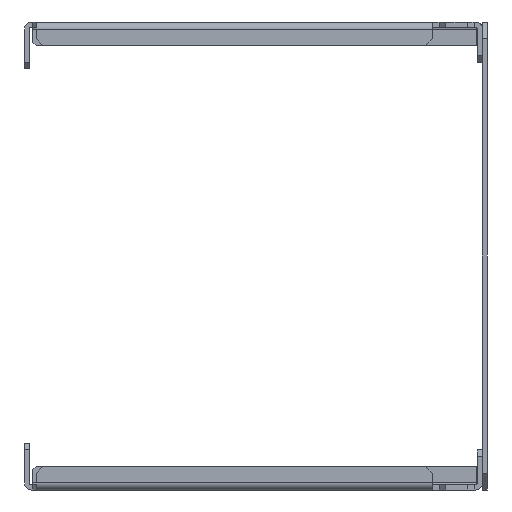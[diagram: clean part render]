
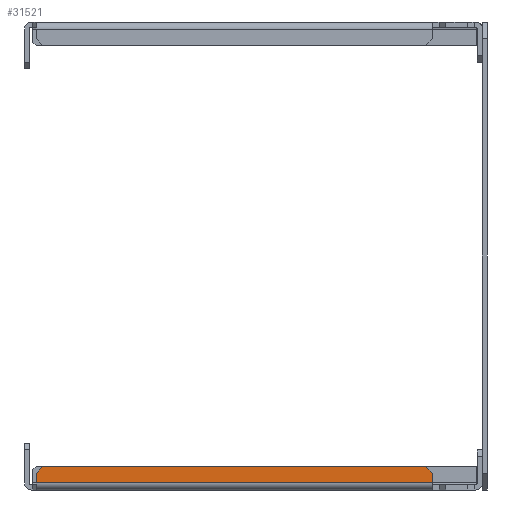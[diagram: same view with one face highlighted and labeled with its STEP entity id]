
A CAD part, left-side view. The second image highlights one B-rep face of the part: STEP entity #31521.
In plain terms, the highlighted planar face has unit normal (-1, 0, 0).
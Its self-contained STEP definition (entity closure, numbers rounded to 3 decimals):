
#14971=CARTESIAN_POINT(' ',(-95.5,65.,0.6));
#14972=VERTEX_POINT(' ',#14971);
#14986=CARTESIAN_POINT(' ',(-95.5,65.,3.5));
#14991=DIRECTION(' ',(0.,0.,-1.));
#14996=VECTOR(' ',#14991,1.);
#15001=LINE('',#14986,#14996);
#15006=CARTESIAN_POINT(' ',(-95.5,65.,3.5));
#15007=VERTEX_POINT(' ',#15006);
#15011=EDGE_CURVE(' ',#15007,#14972,#15001,.T.);
#15341=CARTESIAN_POINT(' ',(-95.5,-53.5,3.5));
#15342=VERTEX_POINT(' ',#15341);
#15356=CARTESIAN_POINT(' ',(-95.5,-53.5,0.6));
#15361=DIRECTION(' ',(0.,0.,1.));
#15366=VECTOR(' ',#15361,1.);
#15371=LINE('',#15356,#15366);
#15376=CARTESIAN_POINT(' ',(-95.5,-53.5,0.6));
#15377=VERTEX_POINT(' ',#15376);
#15381=EDGE_CURVE(' ',#15377,#15342,#15371,.T.);
#28811=CARTESIAN_POINT(' ',(-95.5,-53.5,0.6));
#28816=DIRECTION(' ',(0.,1.,0.));
#28821=VECTOR(' ',#28816,1.);
#28826=LINE('',#28811,#28821);
#28831=EDGE_CURVE(' ',#15377,#14972,#28826,.T.);
#31371=DIRECTION(' ',(-1.,-0.,0.));
#31376=CARTESIAN_POINT(' ',(-95.5,-53.5,5.5));
#31381=DIRECTION(' ',(-0.,1.,0.));
#31386=AXIS2_PLACEMENT_3D(' ',#31376,#31371,#31381);
#31391=PLANE('NONE',#31386);
#31396=ORIENTED_EDGE(' ',*,*,#15381,.T.);
#31401=CARTESIAN_POINT(' ',(-95.5,-53.5,3.5));
#31406=DIRECTION(' ',(0.,0.707,0.707));
#31411=VECTOR(' ',#31406,1.);
#31416=LINE('',#31401,#31411);
#31421=CARTESIAN_POINT(' ',(-95.5,-51.5,5.5));
#31422=VERTEX_POINT(' ',#31421);
#31426=EDGE_CURVE(' ',#15342,#31422,#31416,.T.);
#31431=ORIENTED_EDGE(' ',*,*,#31426,.T.);
#31436=CARTESIAN_POINT(' ',(-95.5,-51.5,5.5));
#31441=DIRECTION(' ',(0.,1.,0.));
#31446=VECTOR(' ',#31441,1.);
#31451=LINE('',#31436,#31446);
#31456=CARTESIAN_POINT(' ',(-95.5,63.,5.5));
#31457=VERTEX_POINT(' ',#31456);
#31461=EDGE_CURVE(' ',#31422,#31457,#31451,.T.);
#31466=ORIENTED_EDGE(' ',*,*,#31461,.T.);
#31471=CARTESIAN_POINT(' ',(-95.5,63.,5.5));
#31476=DIRECTION(' ',(0.,0.707,-0.707));
#31481=VECTOR(' ',#31476,1.);
#31486=LINE('',#31471,#31481);
#31491=EDGE_CURVE(' ',#31457,#15007,#31486,.T.);
#31496=ORIENTED_EDGE(' ',*,*,#31491,.T.);
#31501=ORIENTED_EDGE(' ',*,*,#15011,.T.);
#31506=ORIENTED_EDGE(' ',*,*,#28831,.F.);
#31511=EDGE_LOOP(' ',(#31396,#31431,#31466,#31496,#31501,#31506));
#31516=FACE_OUTER_BOUND(' ',#31511,.T.);
#31521=ADVANCED_FACE('NONE',(#31516),#31391,.T.);
